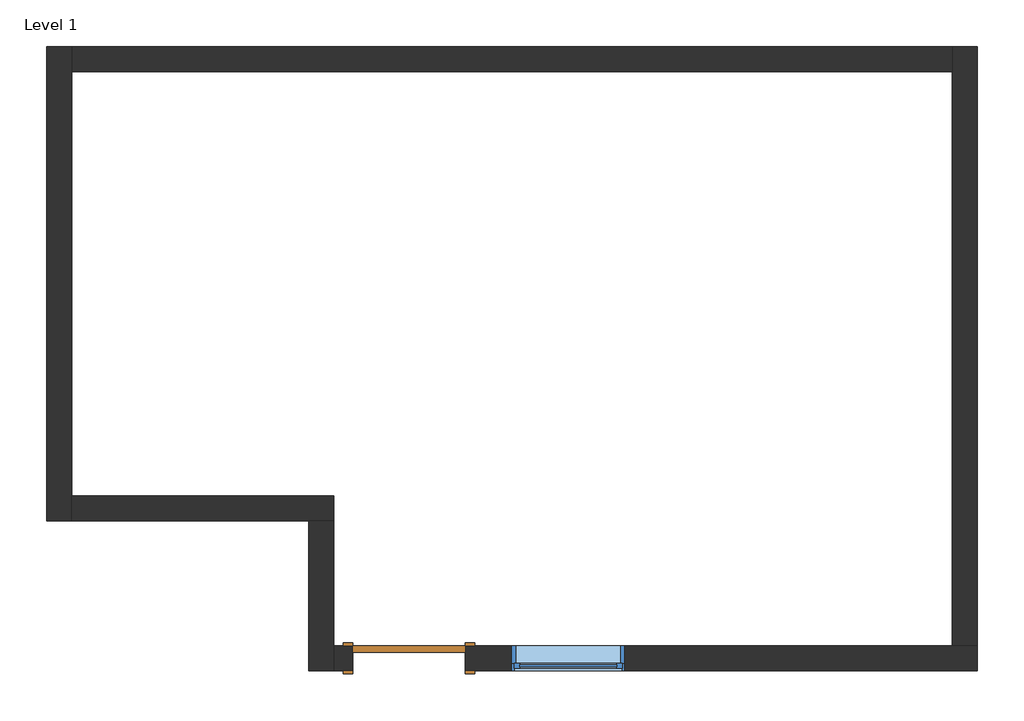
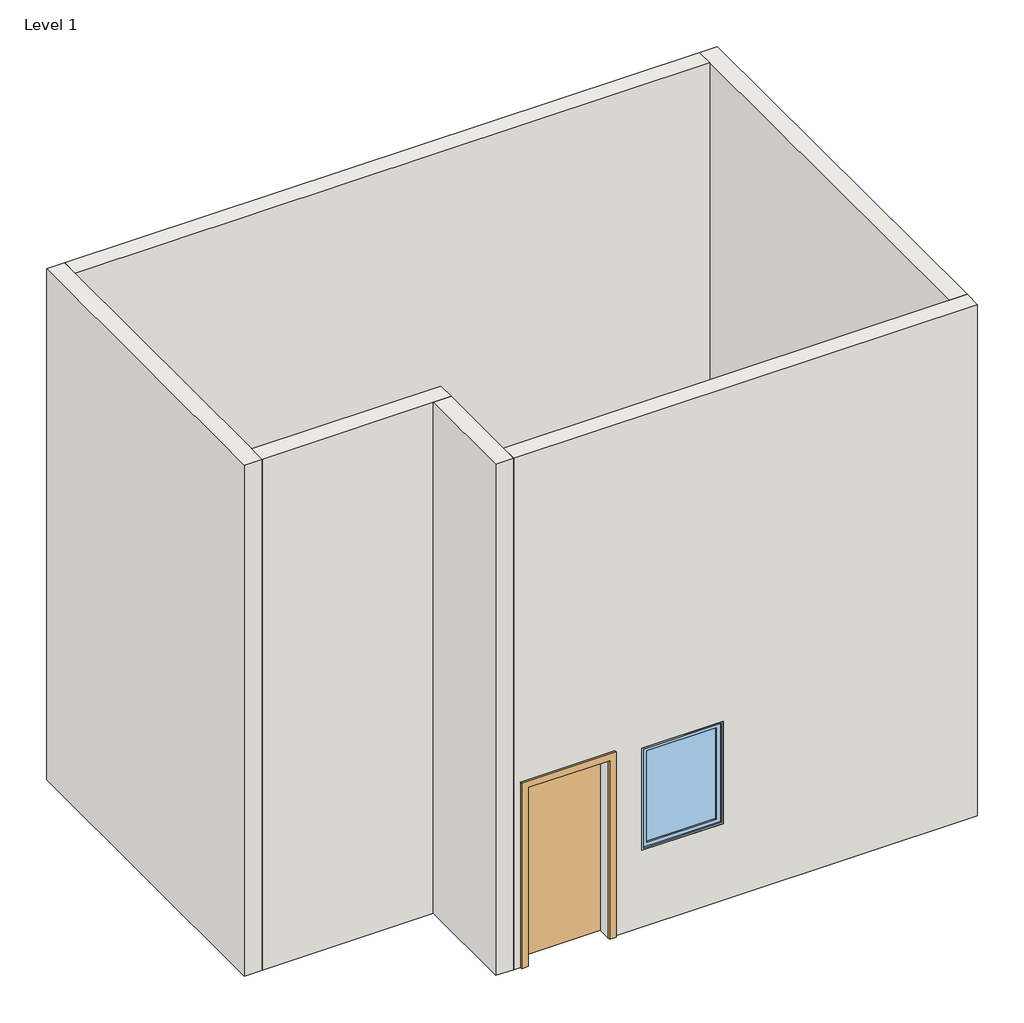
# One storey: 6 walls, 1 door, 1 window.
"""IFC4 building model written with IfcOpenShell, lengths in millimetres."""

from ifc_helpers import new_model, si_unit, origin, origin_with_axes, place, context, project, spatial, polyline, outline, extrude, faceted_brep, transform, mapped, element, save
from components import door_719f80de, window_e2841890

model = new_model("IFC4")

# Units and contexts
model_context = context("Model", 3, world=origin())
ifc_project = project(units=[si_unit("LENGTHUNIT", "METRE", prefix="MILLI")], contexts=[model_context])

# Site, building, storey
site = spatial("IfcSite", under=ifc_project)
building = spatial("IfcBuilding", under=site)
storey = spatial("IfcBuildingStorey", under=building, Name="Level 1", Elevation=0.0)

# Door
placement = place(None, origin())
door_shape = door_719f80de(model_context)
element("IfcDoor", 1, ObjectType="Single-Flush : 36\" x 84\"", at=placement, inside=storey, context=model_context, shape_type="MappedRepresentation", body=[
    mapped(door_shape, transform((-3581.0845617, 2235.9532835, 0.0), x_axis=(-1.0, 0.0, 0.0), y_axis=(0.0, -1.0, 0.0), z_axis=(0.0, 0.0, 1.0))),
])

# Walls
element("IfcWall", 2, ObjectType="Generic - 8\"", at=placement, inside=storey, context=model_context, shape_type="Brep", body=[
    faceted_brep([(-6527.4845617, 7214.3532835, 0.0), (-6527.4845617, 3353.5532835, 0.0), (-6527.4845617, 3353.5532835, 6096.0), (-6527.4845617, 7214.3532835, 6096.0), (-6324.2845617, 7214.3532835, 0.0), (-6324.2845617, 7214.3532835, 6096.0), (-6324.2845617, 7011.1532835, 6096.0), (-6324.2845617, 3556.7532835, 6096.0), (-6324.2845617, 3353.5532835, 6096.0), (-6324.2845617, 3353.5532835, 0.0), (-6324.2845617, 3556.7532835, 0.0), (-6324.2845617, 7011.1532835, 0.0)], [[[0, 1, 2, 3]], [[4, 5, 6, 7, 8, 9, 10, 11]], [[1, 0, 4, 11, 10, 9]], [[3, 2, 8, 7, 6, 5]], [[2, 1, 9, 8]], [[0, 3, 5, 4]]]),
])
element("IfcWall", 3, ObjectType="Generic - 8\"", at=placement, inside=storey, context=model_context, shape_type="Brep", body=[
    faceted_brep([(-6324.2845617, 3353.5532835, 0.0), (-4393.8845617, 3353.5532835, 0.0), (-4190.6845617, 3353.5532835, 0.0), (-4190.6845617, 3353.5532835, 6096.0), (-4393.8845617, 3353.5532835, 6096.0), (-6324.2845617, 3353.5532835, 6096.0), (-6324.2845617, 3556.7532835, 0.0), (-6324.2845617, 3556.7532835, 6096.0), (-4190.6845617, 3556.7532835, 6096.0), (-4190.6845617, 3556.7532835, 0.0)], [[[0, 1, 2, 3, 4, 5]], [[6, 7, 8, 9]], [[2, 1, 0, 6, 9]], [[5, 4, 3, 8, 7]], [[0, 5, 7, 6]], [[3, 2, 9, 8]]]),
])
element("IfcWall", 4, ObjectType="Generic - 8\"", at=placement, inside=storey, context=model_context, shape_type="Brep", body=[
    faceted_brep([(-4393.8845617, 3353.5532835, 0.0), (-4393.8845617, 2134.3532835, 0.0), (-4393.8845617, 2134.3532835, 6096.0), (-4393.8845617, 3353.5532835, 6096.0), (-4190.6845617, 3353.5532835, 0.0), (-4190.6845617, 3353.5532835, 6096.0), (-4190.6845617, 2337.5532835, 6096.0), (-4190.6845617, 2134.3532835, 6096.0), (-4190.6845617, 2134.3532835, 0.0), (-4190.6845617, 2337.5532835, 0.0)], [[[0, 1, 2, 3]], [[4, 5, 6, 7, 8, 9]], [[1, 0, 4, 9, 8]], [[3, 2, 7, 6, 5]], [[0, 3, 5, 4]], [[2, 1, 8, 7]]]),
])
element("IfcWall", 5, ObjectType="Generic - 8\"", at=placement, inside=storey, context=model_context, shape_type="Brep", body=[
    faceted_brep([(-4190.6845617, 2134.3532835, 0.0), (-4038.2845617, 2134.3532835, 0.0), (-4038.2845617, 2134.3532835, 2133.6), (-3123.8845617, 2134.3532835, 2133.6), (-3123.8845617, 2134.3532835, 0.0), (1041.7154383, 2134.3532835, 0.0), (1041.7154383, 2134.3532835, 6096.0), (-4190.6845617, 2134.3532835, 6096.0), (-2742.8845617, 2134.3532835, 2133.6), (-1828.4845617, 2134.3532835, 2133.6), (-1828.4845617, 2134.3532835, 914.4), (-2742.8845617, 2134.3532835, 914.4), (-4038.2845617, 2337.5532835, 2133.6), (-4038.2845617, 2337.5532835, 0.0), (-4190.6845617, 2337.5532835, 0.0), (-4190.6845617, 2337.5532835, 6096.0), (838.5154383, 2337.5532835, 6096.0), (1041.7154383, 2337.5532835, 6096.0), (1041.7154383, 2337.5532835, 0.0), (838.5154383, 2337.5532835, 0.0), (-3123.8845617, 2337.5532835, 0.0), (-3123.8845617, 2337.5532835, 2133.6), (-2742.8845617, 2337.5532835, 2133.6), (-2742.8845617, 2337.5532835, 914.4), (-1828.4845617, 2337.5532835, 914.4), (-1828.4845617, 2337.5532835, 2133.6)], [[[0, 1, 2, 3, 4, 5, 6, 7], [8, 9, 10, 11]], [[12, 13, 14, 15, 16, 17, 18, 19, 20, 21], [22, 23, 24, 25]], [[14, 13, 1, 0]], [[20, 19, 18, 5, 4]], [[7, 6, 17, 16, 15]], [[0, 7, 15, 14]], [[6, 5, 18, 17]], [[2, 1, 13, 12]], [[3, 2, 12, 21]], [[4, 3, 21, 20]], [[23, 22, 8, 11]], [[24, 23, 11, 10]], [[25, 24, 10, 9]], [[22, 25, 9, 8]]]),
])
element("IfcWall", 6, ObjectType="Generic - 8\"", at=placement, inside=storey, context=model_context, shape_type="Brep", body=[
    faceted_brep([(1041.7154383, 2337.5532835, 0.0), (1041.7154383, 7214.3532835, 0.0), (1041.7154383, 7214.3532835, 6096.0), (1041.7154383, 2337.5532835, 6096.0), (838.5154383, 2337.5532835, 0.0), (838.5154383, 2337.5532835, 6096.0), (838.5154383, 7011.1532835, 6096.0), (838.5154383, 7214.3532835, 6096.0), (838.5154383, 7214.3532835, 0.0), (838.5154383, 7011.1532835, 0.0)], [[[0, 1, 2, 3]], [[4, 5, 6, 7, 8, 9]], [[1, 0, 4, 9, 8]], [[3, 2, 7, 6, 5]], [[0, 3, 5, 4]], [[2, 1, 8, 7]]]),
])
element("IfcWall", 7, ObjectType="Generic - 8\"", at=placement, inside=storey, context=model_context, shape_type="SweptSolid", body=[
    extrude(outline(polyline([(-6324.2845617, 7214.3532835), (838.5154383, 7214.3532835), (838.5154383, 7011.1532835), (-6324.2845617, 7011.1532835), (-6324.2845617, 7214.3532835)])), origin_with_axes(), (0.0, 0.0, 1.0), 6096.0),
])

# Window
window_shape = window_e2841890(model_context)
element("IfcWindow", 8, ObjectType="Fixed : 36\" x 48\"", at=placement, inside=storey, context=model_context, shape_type="MappedRepresentation", body=[
    mapped(window_shape, transform((-2323.7845617, 2235.9532835, 0.0), x_axis=(-1.0, 0.0, 0.0), y_axis=(0.0, -1.0, 0.0), z_axis=(0.0, 0.0, 1.0))),
])

save(model, "model.ifc")
